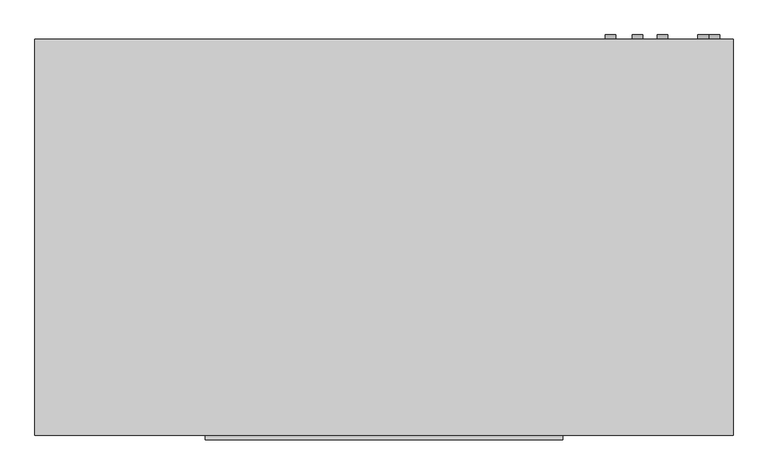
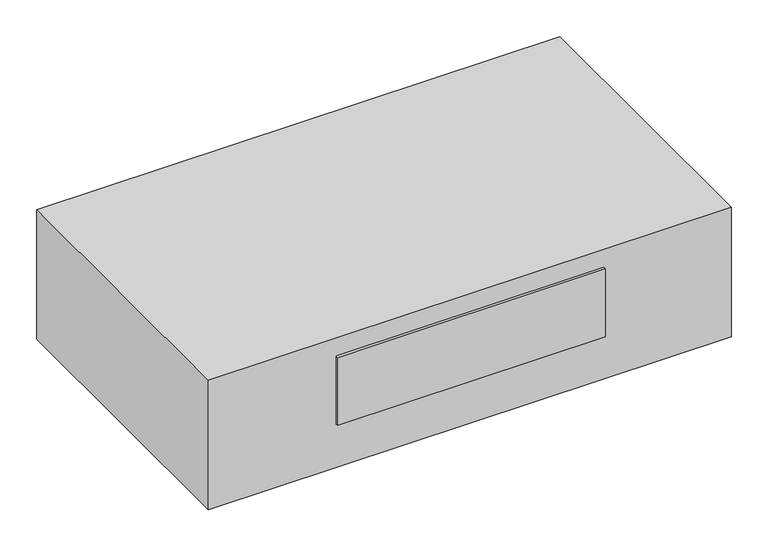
"""IFC4 building model written with IfcOpenShell, lengths in millimetres: proxy geometry, Exposed_Horizontal_Fan_Coil_Unit_-_42CGB_-_CARRIER_-_4-Pipe_FS-BR_RH_2022 : Size 03 - 277v/60Hz/1Ph - 4/1 Coil."""

import ifcopenshell
import ifcopenshell.guid

model = None  # the IFC model being written
_history = None  # IfcOwnerHistory: only IFC2X3 demands one
_inside = {}  # id of a spatial element -> (the spatial element, [elements in it])
_under = {}  # id of a project, library or spatial element -> (it, [spatial elements below it])
_declared = {}  # id of a project -> (the project, [libraries it declares])
_typed = {}  # id of a type object -> (the type object, [elements of that type])
_made_of = {}  # id of a material, layer set ... -> (it, [elements and type objects made of it])


def new_model(schema):
    """Start an empty IFC model of exactly this schema.

    Asked for "IFC4X3", IfcOpenShell would pick the latest addendum, in which some entities
    have other attributes; the version numbers below select the first issue.
    IFC2X3 requires an IfcOwnerHistory on every rooted entity: one is made here for all.
    """
    global model, _history
    if schema == "IFC4X3":
        model = ifcopenshell.file(schema_version=(4, 3, 0, 0))
    else:
        model = ifcopenshell.file(schema=schema)
    _inside.clear()
    _under.clear()
    _declared.clear()
    _typed.clear()
    _made_of.clear()
    _history = None
    if model.schema == "IFC2X3":
        org = make("IfcOrganization", Name="unknown")
        user = make(
            "IfcPersonAndOrganization",
            ThePerson=make("IfcPerson", FamilyName="unknown"),
            TheOrganization=org,
        )
        app = make(
            "IfcApplication",
            ApplicationDeveloper=org,
            Version="unknown",
            ApplicationFullName="unknown",
            ApplicationIdentifier="unknown",
        )
        _history = make(
            "IfcOwnerHistory",
            OwningUser=user,
            OwningApplication=app,
            ChangeAction="ADDED",
            CreationDate=0,
        )
    return model


def make(cls, **values):
    """One entity of the class cls with the attributes given. An attribute that is None is left unset."""
    return model.create_entity(
        cls, **{name: value for name, value in values.items() if value is not None}
    )


def rooted(cls, **values):
    """An entity with a GlobalId (a new one), such as an element, a storey or a relation."""
    return make(cls, GlobalId=ifcopenshell.guid.new(), OwnerHistory=_history, **values)


def si_unit(unit_type, name, prefix=None):
    """IfcSIUnit, for example si_unit("LENGTHUNIT", "METRE", prefix="MILLI")."""
    return make("IfcSIUnit", UnitType=unit_type, Prefix=prefix, Name=name)


def assignment(units):
    """IfcUnitAssignment: the units of a project."""
    return None if units is None else make("IfcUnitAssignment", Units=units)


def point(xyz):
    """IfcCartesianPoint."""
    return None if xyz is None else make("IfcCartesianPoint", Coordinates=xyz)


def direction(xyz):
    """IfcDirection."""
    return None if xyz is None else make("IfcDirection", DirectionRatios=xyz)


def frame(location, z_axis=None, x_axis=None):
    """IfcAxis2Placement3D, a coordinate frame: its origin and axes. An axis left out is left unset."""
    return make(
        "IfcAxis2Placement3D",
        Location=point(location),
        Axis=direction(z_axis),
        RefDirection=direction(x_axis),
    )


def frame_2d(location, x_axis=None):
    """IfcAxis2Placement2D, a coordinate frame in the plane: its origin and x axis."""
    return make(
        "IfcAxis2Placement2D", Location=point(location), RefDirection=direction(x_axis)
    )


def origin():
    """The frame at (0, 0, 0) with its axes left unset."""
    return frame((0.0, 0.0, 0.0))


def place(relative_to, where):
    """IfcLocalPlacement: puts the frame where relative to a parent placement (None: the world)."""
    return make(
        "IfcLocalPlacement", PlacementRelTo=relative_to, RelativePlacement=where
    )


def context(
    kind, dimensions, precision=None, world=None, true_north=None, identifier=None
):
    """IfcGeometricRepresentationContext, for example the 3D "Model" context."""
    return make(
        "IfcGeometricRepresentationContext",
        ContextIdentifier=identifier,
        ContextType=kind,
        CoordinateSpaceDimension=dimensions,
        Precision=precision,
        WorldCoordinateSystem=world,
        TrueNorth=true_north,
    )


def project(units=None, contexts=None):
    """IfcProject with its units and contexts."""
    return rooted(
        "IfcProject",
        Name="project",
        RepresentationContexts=contexts,
        UnitsInContext=assignment(units),
    )


def spatial(cls, under=None, at=None, **own):
    """A site, building, storey or space (cls), placed at a placement, below another one or the project."""
    s = rooted(cls, ObjectPlacement=at, **own)
    if under is not None:
        _under.setdefault(under.id(), (under, []))[1].append(s)
    return s


def polyline(points):
    """IfcPolyline through the points."""
    return make("IfcPolyline", Points=[point(p) for p in points])


def circle_curve(where, radius):
    """IfcCircle in the frame where."""
    return make("IfcCircle", Position=where, Radius=radius)


def trimmed(basis, trim1, trim2, sense, master):
    """IfcTrimmedCurve: the piece of a basis curve between two trims."""
    return make(
        "IfcTrimmedCurve",
        BasisCurve=basis,
        Trim1=trim1,
        Trim2=trim2,
        SenseAgreement=sense,
        MasterRepresentation=master,
    )


def segment(curve, same_sense, transition):
    """IfcCompositeCurveSegment."""
    return make(
        "IfcCompositeCurveSegment",
        Transition=transition,
        SameSense=same_sense,
        ParentCurve=curve,
    )


def composite_curve(segments, self_intersect=None):
    """IfcCompositeCurve: segments joined end to end."""
    return make("IfcCompositeCurve", Segments=segments, SelfIntersect=self_intersect)


def outline(outer, holes=None, kind="AREA"):
    """IfcArbitraryClosedProfileDef: a profile drawn as a closed curve; with holes, ...WithVoids."""
    if holes is None:
        return make("IfcArbitraryClosedProfileDef", ProfileType=kind, OuterCurve=outer)
    return make(
        "IfcArbitraryProfileDefWithVoids",
        ProfileType=kind,
        OuterCurve=outer,
        InnerCurves=holes,
    )


def extrude(swept, where, along, depth):
    """IfcExtrudedAreaSolid: the profile swept, set in the frame where, extruded along a direction by depth."""
    return make(
        "IfcExtrudedAreaSolid",
        SweptArea=swept,
        Position=where,
        ExtrudedDirection=direction(along),
        Depth=depth,
    )


def shape(context_of_items, identifier, shape_type, items):
    """IfcShapeRepresentation: the items that make up one representation, for example the "Body"."""
    return make(
        "IfcShapeRepresentation",
        ContextOfItems=context_of_items,
        RepresentationIdentifier=identifier,
        RepresentationType=shape_type,
        Items=items,
    )


def source(mapping_origin, context_of_items, identifier, shape_type, items):
    """IfcRepresentationMap: a shape defined once, which mapped items show again and again."""
    return make(
        "IfcRepresentationMap",
        MappingOrigin=mapping_origin,
        MappedRepresentation=shape(context_of_items, identifier, shape_type, items),
    )


def transform(
    local_origin,
    x_axis=None,
    y_axis=None,
    z_axis=None,
    scale=None,
    scale2=None,
    scale3=None,
    uniform=True,
):
    """IfcCartesianTransformationOperator3D, or its non-uniform kind. x_axis, y_axis, z_axis: its Axis1, 2, 3."""
    if uniform:
        return make(
            "IfcCartesianTransformationOperator3D",
            Axis1=direction(x_axis),
            Axis2=direction(y_axis),
            LocalOrigin=point(local_origin),
            Scale=scale,
            Axis3=direction(z_axis),
        )
    return make(
        "IfcCartesianTransformationOperator3DnonUniform",
        Axis1=direction(x_axis),
        Axis2=direction(y_axis),
        LocalOrigin=point(local_origin),
        Scale=scale,
        Axis3=direction(z_axis),
        Scale2=scale2,
        Scale3=scale3,
    )


def mapped(mapping_source, mapping_target):
    """IfcMappedItem: shows the shape of a source again, moved by a transform."""
    return make(
        "IfcMappedItem", MappingSource=mapping_source, MappingTarget=mapping_target
    )


def made_of(thing, what):
    """Note that an element or type object is made of a material, layer set ...; save() writes the relation."""
    if what is not None:
        _made_of.setdefault(what.id(), (what, []))[1].append(thing)
    return thing


def element(
    cls,
    number,
    at=None,
    inside=None,
    cuts=None,
    type_object=None,
    material=None,
    context=None,
    identifier="Body",
    shape_type=None,
    held_by="IfcProductDefinitionShape",
    body=None,
    shapes=None,
    **own,
):
    """One element of the class cls, such as IfcWall. Its Tag is "e" and its number.

    at: its placement. inside: the storey or other place that contains it. cuts: it is an
    opening in that element (IfcRelVoidsElement). A single representation is given by context,
    identifier, shape_type and body (its items); several are given by shapes. held_by: the class
    of the entity that holds the representations. save() writes the other relations.
    """
    e = rooted(cls, Tag="e%d" % number, ObjectPlacement=at, **own)
    if body is not None:
        shapes = [shape(context, identifier, shape_type, body)]
    if shapes is not None:
        e.Representation = make(held_by, Representations=shapes)
    if inside is not None:
        _inside.setdefault(inside.id(), (inside, []))[1].append(e)
    if cuts is not None:
        rooted(
            "IfcRelVoidsElement", RelatingBuildingElement=cuts, RelatedOpeningElement=e
        )
    if type_object is not None:
        _typed.setdefault(type_object.id(), (type_object, []))[1].append(e)
    return made_of(e, material)


def aggregate(whole, parts):
    """IfcRelAggregates: a whole, such as a stair, and the parts it consists of."""
    return rooted("IfcRelAggregates", RelatingObject=whole, RelatedObjects=parts)


def save(model, path):
    """Write the relations noted so far, then the file.

    IfcRelAggregates (storeys below a building ...), IfcRelContainedInSpatialStructure (elements
    in a storey), IfcRelDefinesByType, IfcRelAssociatesMaterial and IfcRelDeclares: one each for
    every whole, place, type object, material and project.
    """
    for whole, parts in _under.values():
        aggregate(whole, parts)
    for where, things in _inside.values():
        rooted(
            "IfcRelContainedInSpatialStructure",
            RelatedElements=things,
            RelatingStructure=where,
        )
    for kind, things in _typed.values():
        rooted("IfcRelDefinesByType", RelatedObjects=things, RelatingType=kind)
    for what, things in _made_of.values():
        rooted("IfcRelAssociatesMaterial", RelatedObjects=things, RelatingMaterial=what)
    for by, libraries in _declared.values():
        rooted("IfcRelDeclares", RelatingContext=by, RelatedDefinitions=libraries)
    model.write(path)


def mechanical_equipment_c078aeba(model_context):
    return source(origin(), model_context, "Body", "SweptSolid", [
        extrude(outline(composite_curve([segment(trimmed(circle_curve(frame_2d((-85.725, 657.225)), 7.9375), [point((-85.725, 665.1625))], [point((-85.725, 649.2875))], False, "CARTESIAN"), True, "CONTINUOUS"), segment(trimmed(circle_curve(frame_2d((-85.725, 657.225)), 7.9375), [point((-85.725, 649.2875))], [point((-85.725, 665.1625))], False, "CARTESIAN"), True, "CONTINUOUS")], self_intersect=False)), frame((0.0, 65.0875, 0.0), z_axis=(0.0, 1.0, 0.0), x_axis=(0.0, 0.0, 1.0)), (0.0, 0.0, 1.0), 6.35),
        extrude(outline(composite_curve([segment(trimmed(circle_curve(frame_2d((-44.45, 577.85)), 7.9375), [point((-44.45, 585.7875))], [point((-44.45, 569.9125))], False, "CARTESIAN"), True, "CONTINUOUS"), segment(trimmed(circle_curve(frame_2d((-44.45, 577.85)), 7.9375), [point((-44.45, 569.9125))], [point((-44.45, 585.7875))], False, "CARTESIAN"), True, "CONTINUOUS")], self_intersect=False)), frame((0.0, 65.0875, 0.0), z_axis=(0.0, 1.0, 0.0), x_axis=(0.0, 0.0, 1.0)), (0.0, 0.0, 1.0), 6.35),
        extrude(outline(composite_curve([segment(trimmed(circle_curve(frame_2d((-95.25, 539.75)), 7.9375), [point((-95.25, 547.6875))], [point((-95.25, 531.8125))], False, "CARTESIAN"), True, "CONTINUOUS"), segment(trimmed(circle_curve(frame_2d((-95.25, 539.75)), 7.9375), [point((-95.25, 531.8125))], [point((-95.25, 547.6875))], False, "CARTESIAN"), True, "CONTINUOUS")], self_intersect=False)), frame((0.0, 65.0875, 0.0), z_axis=(0.0, 1.0, 0.0), x_axis=(0.0, 0.0, 1.0)), (0.0, 0.0, 1.0), 6.35),
        extrude(outline(composite_curve([segment(trimmed(circle_curve(frame_2d((-60.325, 498.475)), 7.9375), [point((-60.325, 506.4125))], [point((-60.325, 490.5375))], False, "CARTESIAN"), True, "CONTINUOUS"), segment(trimmed(circle_curve(frame_2d((-60.325, 498.475)), 7.9375), [point((-60.325, 490.5375))], [point((-60.325, 506.4125))], False, "CARTESIAN"), True, "CONTINUOUS")], self_intersect=False)), frame((0.0, 65.0875, 0.0), z_axis=(0.0, 1.0, 0.0), x_axis=(0.0, 0.0, 1.0)), (0.0, 0.0, 1.0), 6.35),
        extrude(outline(composite_curve([segment(trimmed(circle_curve(frame_2d((-260.35, 641.35)), 9.525), [point((-260.35, 650.875))], [point((-260.35, 631.825))], False, "CARTESIAN"), True, "CONTINUOUS"), segment(trimmed(circle_curve(frame_2d((-260.35, 641.35)), 9.525), [point((-260.35, 631.825))], [point((-260.35, 650.875))], False, "CARTESIAN"), True, "CONTINUOUS")], self_intersect=False)), frame((0.0, 65.0875, 0.0), z_axis=(0.0, 1.0, 0.0), x_axis=(0.0, 0.0, 1.0)), (0.0, 0.0, 1.0), 6.35),
        extrude(outline(polyline([(-381.0, 65.0875), (685.8, 65.0875), (685.8, -541.3375), (-381.0, -541.3375), (-381.0, 65.0875)])), frame((0.0, 0.0, -279.4), z_axis=(0.0, 0.0, 1.0), x_axis=(1.0, 0.0, 0.0)), (0.0, 0.0, 1.0), 279.4),
        extrude(outline(polyline([(425.45, -547.6875), (-120.65, -547.6875), (-120.65, -541.3375), (425.45, -541.3375), (425.45, -547.6875)])), frame((0.0, 0.0, -184.15), z_axis=(0.0, 0.0, 1.0), x_axis=(1.0, 0.0, 0.0)), (0.0, 0.0, 1.0), 146.05),
        extrude(outline(polyline([(508.0, -11.1125), (508.0, -265.1125), (-203.2, -265.1125), (-203.2, -11.1125), (508.0, -11.1125)])), frame((0.0, 0.0, -285.75), z_axis=(0.0, 0.0, 1.0), x_axis=(1.0, 0.0, 0.0)), (0.0, 0.0, 1.0), 6.35),
    ])


if __name__ == "__main__":
    model = new_model("IFC4")
    model_context = context("Model", 3, world=origin())
    ifc_project = project(units=[si_unit("LENGTHUNIT", "METRE", prefix="MILLI")], contexts=[model_context])
    site = spatial("IfcSite", under=ifc_project)
    building = spatial("IfcBuilding", under=site)
    placement = place(None, origin())
    mechanical_equipment_shape = mechanical_equipment_c078aeba(model_context)
    element("IfcBuildingElementProxy", 1, Name="Exposed_Horizontal_Fan_Coil_Unit_-_42CGB_-_CARRIER_-_4-Pipe_FS-BR_RH_2022 : Size 03 - 277v/60Hz/1Ph - 4/1 Coil", ObjectType="Exposed_Horizontal_Fan_Coil_Unit_-_42CGB_-_CARRIER_-_4-Pipe_FS-BR_RH_2022 : Size 03 - 277v/60Hz/1Ph - 4/1 Coil", at=placement, inside=building, context=model_context, shape_type="MappedRepresentation", body=[
        mapped(mechanical_equipment_shape, transform((0.0, 0.0, 0.0), x_axis=(1.0, 0.0, 0.0), y_axis=(0.0, 1.0, 0.0), z_axis=(0.0, 0.0, 1.0))),
    ])
    save(model, "model.ifc")
